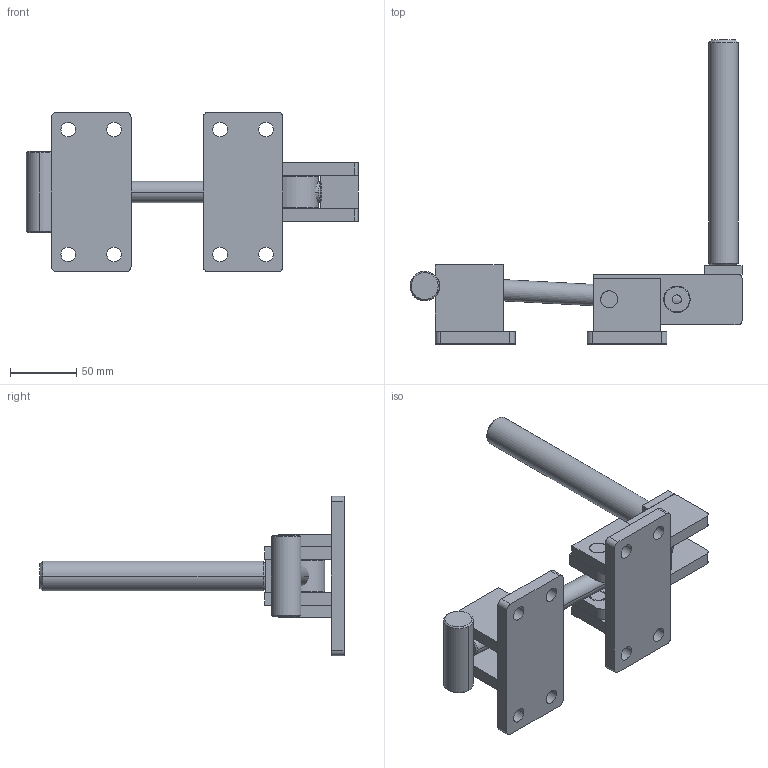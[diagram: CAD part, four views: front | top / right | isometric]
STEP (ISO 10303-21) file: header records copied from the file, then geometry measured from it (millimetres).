
FILE_DESCRIPTION (( 'STEP AP203' ), '1' );
FILE_NAME ('KF-350.STEP', '2014-08-22T14:08:04', ( 'Ricardo' ), ( '' ), 'SwSTEP 2.0', 'SolidWorks 2013', '' );
FILE_SCHEMA (( 'CONFIG_CONTROL_DESIGN' ));
Length unit declared in the file: millimetre
Products named in the file (12): 16.20023; 02.10015; 15.10020; KF-350; 15.10022; 04.10007; 08.10025; 16.20022; 03.20012; 15.10021; 15.10023; 01.20010
Assembly tree (16 placements, depth 2):
  KF-350
    02.10015  x2
    15.10020  x2
    15.10021  x2
    08.10025  x2
    15.10022
    01.20010
    03.20012
    15.10023
    16.20022
    04.10007
    16.20023  x2
Bounding box: 249.9 x 228.88 x 120 mm (x, y, z)
Volume: 456454.6 mm3; surface area: 126393.3 mm2
Topology: 16 solids, 16 shells, 172 faces, 390 edges, 250 vertices
Faces by surface type: plane 76, cylinder 68, cone 28
Entity records: 4948 total; most frequent: CARTESIAN_POINT 811, DIRECTION 624, ORIENTED_EDGE 520, EDGE_CURVE 260, AXIS2_PLACEMENT_3D 241, VERTEX_POINT 164, VECTOR 142, LINE 142
